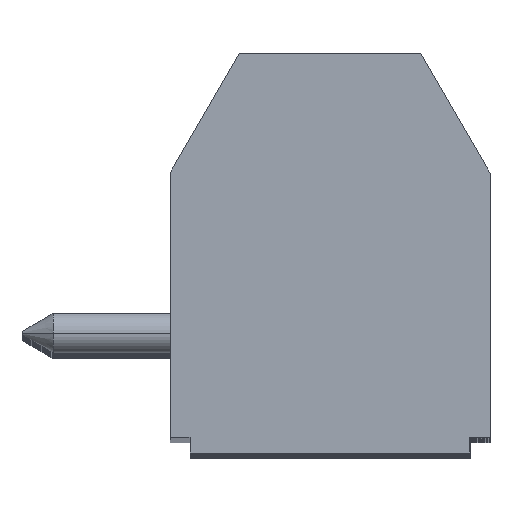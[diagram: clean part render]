
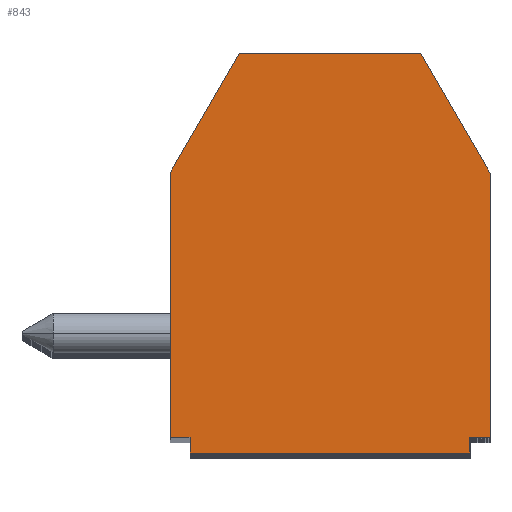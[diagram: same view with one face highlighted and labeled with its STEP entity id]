
A CAD part, top view. The second image highlights one B-rep face of the part: STEP entity #843.
In plain terms, the highlighted planar face has unit normal (0, 0, 1).
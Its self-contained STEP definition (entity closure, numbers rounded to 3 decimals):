
#837 = EDGE_CURVE ( 'NONE', #838, #12244, #18364, .T. ) ;
#838 = VERTEX_POINT ( 'NONE', #18360 ) ;
#843 = ADVANCED_FACE ( 'NONE', ( #18418 ), #18417, .T. ) ;
#844 = EDGE_LOOP ( 'NONE', ( #845, #846, #847, #848, #903, #904, #905, #906, #907, #908 ) ) ;
#845 = ORIENTED_EDGE ( 'NONE', *, *, #837, .T. ) ;
#846 = ORIENTED_EDGE ( 'NONE', *, *, #12189, .T. ) ;
#847 = ORIENTED_EDGE ( 'NONE', *, *, #5904, .F. ) ;
#848 = ORIENTED_EDGE ( 'NONE', *, *, #4779, .T. ) ;
#864 = VERTEX_POINT ( 'NONE', #18391 ) ;
#867 = EDGE_CURVE ( 'NONE', #11986, #864, #18458, .T. ) ;
#903 = ORIENTED_EDGE ( 'NONE', *, *, #11938, .T. ) ;
#904 = ORIENTED_EDGE ( 'NONE', *, *, #11945, .T. ) ;
#905 = ORIENTED_EDGE ( 'NONE', *, *, #12016, .T. ) ;
#906 = ORIENTED_EDGE ( 'NONE', *, *, #11988, .T. ) ;
#907 = ORIENTED_EDGE ( 'NONE', *, *, #867, .T. ) ;
#908 = ORIENTED_EDGE ( 'NONE', *, *, #910, .F. ) ;
#910 = EDGE_CURVE ( 'NONE', #838, #864, #18461, .T. ) ;
#4714 = VERTEX_POINT ( 'NONE', #24569 ) ;
#4719 = VERTEX_POINT ( 'NONE', #24625 ) ;
#4779 = EDGE_CURVE ( 'NONE', #4714, #4719, #24713, .T. ) ;
#5904 = EDGE_CURVE ( 'NONE', #4714, #5906, #26174, .T. ) ;
#5906 = VERTEX_POINT ( 'NONE', #26229 ) ;
#11936 = VERTEX_POINT ( 'NONE', #46501 ) ;
#11938 = EDGE_CURVE ( 'NONE', #4719, #11936, #46494, .T. ) ;
#11943 = VERTEX_POINT ( 'NONE', #46541 ) ;
#11945 = EDGE_CURVE ( 'NONE', #11936, #11943, #46539, .T. ) ;
#11986 = VERTEX_POINT ( 'NONE', #46549 ) ;
#11988 = EDGE_CURVE ( 'NONE', #12014, #11986, #46548, .T. ) ;
#12014 = VERTEX_POINT ( 'NONE', #46586 ) ;
#12016 = EDGE_CURVE ( 'NONE', #11943, #12014, #46585, .T. ) ;
#12189 = EDGE_CURVE ( 'NONE', #12244, #5906, #46679, .T. ) ;
#12244 = VERTEX_POINT ( 'NONE', #46740 ) ;
#18205 = DIRECTION ( 'NONE',  ( 1., 0., 0. ) ) ;
#18360 = CARTESIAN_POINT ( 'NONE',  ( -1.83, 6.755, 0. ) ) ;
#18361 = DIRECTION ( 'NONE',  ( -0.5, -0.866, 0. ) ) ;
#18362 = VECTOR ( 'NONE', #18361, 1000. ) ;
#18363 = CARTESIAN_POINT ( 'NONE',  ( -1.83, 6.755, 0. ) ) ;
#18364 = LINE ( 'NONE', #18363, #18362 ) ;
#18391 = CARTESIAN_POINT ( 'NONE',  ( 2.706, 6.755, 0. ) ) ;
#18413 = DIRECTION ( 'NONE',  ( 1., 0., 0. ) ) ;
#18414 = DIRECTION ( 'NONE',  ( 0., 0., 1. ) ) ;
#18415 = CARTESIAN_POINT ( 'NONE',  ( -3.562, -3.245, 0. ) ) ;
#18416 = AXIS2_PLACEMENT_3D ( 'NONE', #18415, #18414, #18413 ) ;
#18417 = PLANE ( 'NONE',  #18416 ) ;
#18418 = FACE_OUTER_BOUND ( 'NONE', #844, .T. ) ;
#18454 = DIRECTION ( 'NONE',  ( -0.5, 0.866, 0. ) ) ;
#18456 = VECTOR ( 'NONE', #18454, 1000. ) ;
#18457 = CARTESIAN_POINT ( 'NONE',  ( 4.438, 3.755, 0. ) ) ;
#18458 = LINE ( 'NONE', #18457, #18456 ) ;
#18459 = VECTOR ( 'NONE', #18205, 1000. ) ;
#18460 = CARTESIAN_POINT ( 'NONE',  ( 2.706, 6.755, 0. ) ) ;
#18461 = LINE ( 'NONE', #18460, #18459 ) ;
#24569 = CARTESIAN_POINT ( 'NONE',  ( -3.062, -2.845, 0. ) ) ;
#24625 = CARTESIAN_POINT ( 'NONE',  ( -3.062, -3.245, 0. ) ) ;
#24710 = DIRECTION ( 'NONE',  ( 0., -1., 0. ) ) ;
#24711 = VECTOR ( 'NONE', #24710, 1000. ) ;
#24712 = CARTESIAN_POINT ( 'NONE',  ( -3.062, -3.045, 0. ) ) ;
#24713 = LINE ( 'NONE', #24712, #24711 ) ;
#26171 = DIRECTION ( 'NONE',  ( -1., 0., 0. ) ) ;
#26172 = VECTOR ( 'NONE', #26171, 1000. ) ;
#26173 = CARTESIAN_POINT ( 'NONE',  ( -3.562, -2.845, 0. ) ) ;
#26174 = LINE ( 'NONE', #26173, #26172 ) ;
#26229 = CARTESIAN_POINT ( 'NONE',  ( -3.562, -2.845, 0. ) ) ;
#46491 = DIRECTION ( 'NONE',  ( 1., 0., 0. ) ) ;
#46492 = VECTOR ( 'NONE', #46491, 1000. ) ;
#46493 = CARTESIAN_POINT ( 'NONE',  ( 0.438, -3.245, 0. ) ) ;
#46494 = LINE ( 'NONE', #46493, #46492 ) ;
#46501 = CARTESIAN_POINT ( 'NONE',  ( 3.938, -3.245, 0. ) ) ;
#46536 = DIRECTION ( 'NONE',  ( 0., 1., 0. ) ) ;
#46537 = VECTOR ( 'NONE', #46536, 1000. ) ;
#46538 = CARTESIAN_POINT ( 'NONE',  ( 3.938, 1.755, 0. ) ) ;
#46539 = LINE ( 'NONE', #46538, #46537 ) ;
#46541 = CARTESIAN_POINT ( 'NONE',  ( 3.938, -2.845, 0. ) ) ;
#46545 = DIRECTION ( 'NONE',  ( 0., 1., 0. ) ) ;
#46546 = VECTOR ( 'NONE', #46545, 1000. ) ;
#46547 = CARTESIAN_POINT ( 'NONE',  ( 4.438, -3.245, 0. ) ) ;
#46548 = LINE ( 'NONE', #46547, #46546 ) ;
#46549 = CARTESIAN_POINT ( 'NONE',  ( 4.438, 3.755, 0. ) ) ;
#46582 = DIRECTION ( 'NONE',  ( 1., 0., 0. ) ) ;
#46583 = VECTOR ( 'NONE', #46582, 1000. ) ;
#46584 = CARTESIAN_POINT ( 'NONE',  ( 0.438, -2.845, 0. ) ) ;
#46585 = LINE ( 'NONE', #46584, #46583 ) ;
#46586 = CARTESIAN_POINT ( 'NONE',  ( 4.438, -2.845, 0. ) ) ;
#46676 = DIRECTION ( 'NONE',  ( 0., -1., 0. ) ) ;
#46677 = VECTOR ( 'NONE', #46676, 1000. ) ;
#46678 = CARTESIAN_POINT ( 'NONE',  ( -3.562, 1.755, 0. ) ) ;
#46679 = LINE ( 'NONE', #46678, #46677 ) ;
#46740 = CARTESIAN_POINT ( 'NONE',  ( -3.562, 3.755, 0. ) ) ;
